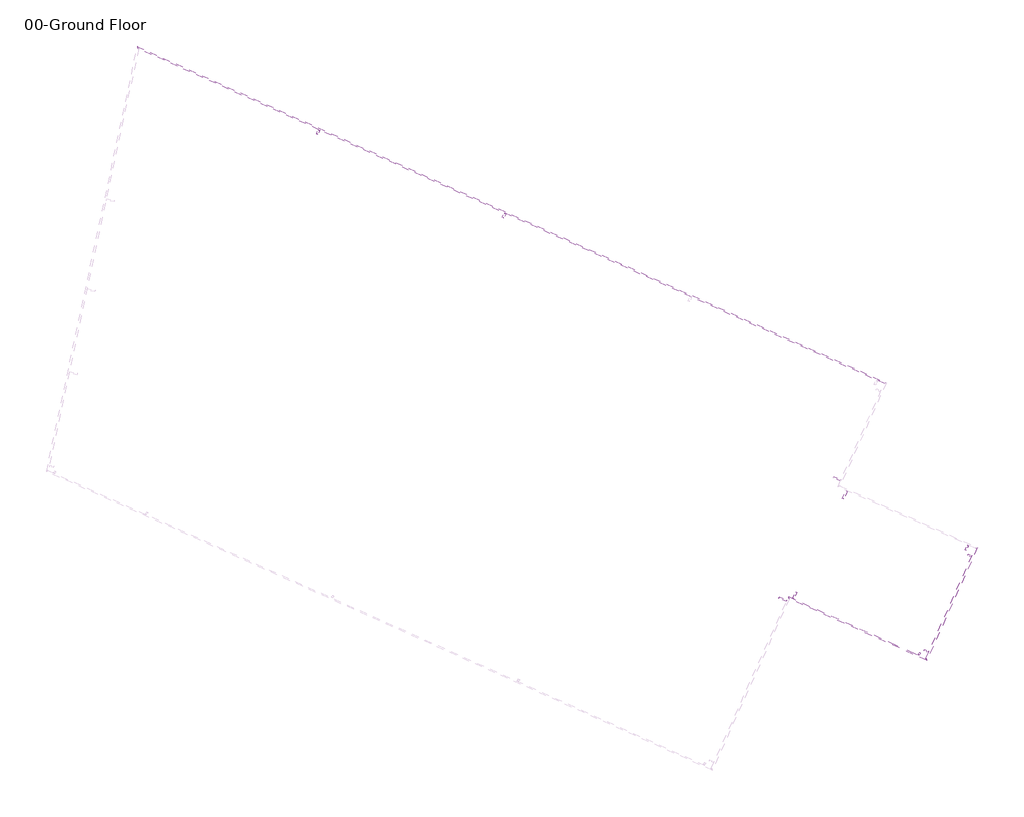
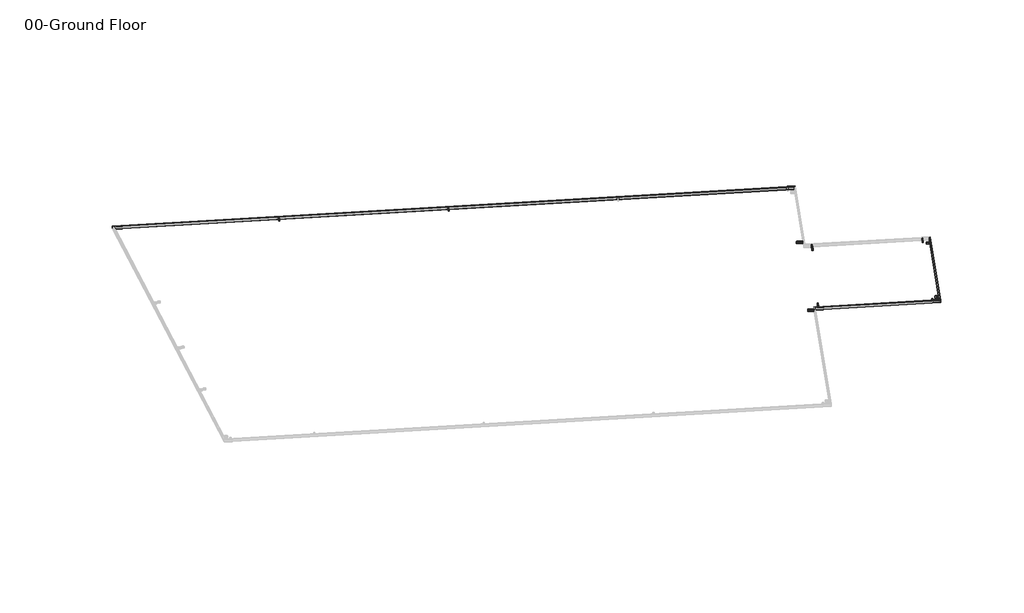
# One storey, part 4 of 5: 13 beams.
"""IFC4 building model written with IfcOpenShell, lengths in millimetres."""

from ifc_helpers import new_model, si_unit, frame, origin, place, context, project, spatial, polyline, ellipse_curve, transform, mapped, element, save
from ifc_brep_helpers import plane_surface, cylinder_surface, revolved_surface, advanced_brep
from components import hss_hollow_structural_section_hss3x2x1_8_a8fac2c2, hss_hollow_structural_section_hss3x2x1_8_9bae5ac0, hss_hollow_structural_section_hss3x2x1_8_4448584e, hss_hollow_structural_section_hss3x2x1_8_013797e3, hss_hollow_structural_section_hss3x2x1_8_d322ad7d, hss_hollow_structural_section_hss3x2x1_8_eb60367d, hss_hollow_structural_section_hss3x2x1_8_ec86c395, hss_hollow_structural_section_hss3x2x1_8_a59be2b4

model = new_model("IFC4")

# Units and contexts
model_context = context("Model", 3, world=origin())
ifc_project = project(units=[si_unit("LENGTHUNIT", "METRE", prefix="MILLI")], contexts=[model_context])

# Site, building, storey
site = spatial("IfcSite", under=ifc_project)
building = spatial("IfcBuilding", under=site)
storey = spatial("IfcBuildingStorey", under=building, Name="00-Ground Floor", Elevation=0.0)

# Beams
placement = place(None, origin())
hss_hollow_structural_section_hss3x2x1_8_shape = hss_hollow_structural_section_hss3x2x1_8_a8fac2c2(model_context)
element("IfcBeam", 1, ObjectType="HSS-Hollow Structural Section : HSS3X2X1/8", at=placement, inside=storey, context=model_context, shape_type="MappedRepresentation", body=[
    mapped(hss_hollow_structural_section_hss3x2x1_8_shape, transform((36965.3915736, -2497.5805101, 16658.2302755), x_axis=(0.4091945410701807, 0.9109449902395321, 0.052335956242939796), y_axis=(-0.9121951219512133, 0.4097560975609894, 0.0), z_axis=(-0.021444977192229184, -0.04774060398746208, 0.9986295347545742))),
])
element("IfcBeam", 2, ObjectType="HSS-Hollow Structural Section : HSS3X2X1/8", at=placement, inside=storey, context=model_context, shape_type="MappedRepresentation", body=[
    mapped(hss_hollow_structural_section_hss3x2x1_8_shape, transform((43360.2442565, -5370.1346564, 16658.2302755), x_axis=(0.40919454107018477, 0.9109449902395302, 0.05233595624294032), y_axis=(-0.9121951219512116, 0.40975609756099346, 0.0), z_axis=(-0.0214449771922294, -0.047740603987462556, 0.9986295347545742))),
])
hss_hollow_structural_section_hss3x2x1_8_2_shape = hss_hollow_structural_section_hss3x2x1_8_9bae5ac0(model_context)
element("IfcBeam", 3, ObjectType="HSS-Hollow Structural Section : HSS3X2X1/8", at=placement, inside=storey, context=model_context, shape_type="MappedRepresentation", body=[
    mapped(hss_hollow_structural_section_hss3x2x1_8_2_shape, transform((57874.4831972, -20293.602729, 16256.4818369), x_axis=(0.9121951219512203, -0.40975609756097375, 0.0), y_axis=(0.4091945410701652, 0.9109449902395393, 0.052335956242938), z_axis=(-0.021444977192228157, -0.047740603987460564, 0.9986295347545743))),
])
hss_hollow_structural_section_hss3x2x1_8_3_shape = hss_hollow_structural_section_hss3x2x1_8_4448584e(model_context)
element("IfcBeam", 4, ObjectType="HSS-Hollow Structural Section : HSS3X2X1/8", at=placement, inside=storey, context=model_context, shape_type="MappedRepresentation", body=[
    mapped(hss_hollow_structural_section_hss3x2x1_8_3_shape, transform((54845.0693796, -14392.0834896, 16473.5557118), x_axis=(0.9121951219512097, -0.4097560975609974, 0.0), y_axis=(0.40919454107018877, 0.9109449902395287, 0.05233595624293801), z_axis=(-0.0214449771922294, -0.047740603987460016, 0.9986295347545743))),
])
element("IfcBeam", 5, ObjectType="HSS-Hollow Structural Section : HSS3X2X1/8", at=placement, inside=storey, context=model_context, shape_type="MappedRepresentation", body=[
    mapped(hss_hollow_structural_section_hss3x2x1_8_3_shape, transform((52986.4238112, -18529.7825525, 16235.8350597), x_axis=(0.9121951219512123, -0.4097560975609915, 0.0), y_axis=(0.4091945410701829, 0.9109449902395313, 0.052335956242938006), z_axis=(-0.021444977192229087, -0.04774060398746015, 0.9986295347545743))),
])
hss_hollow_structural_section_hss3x2x1_8_4_shape = hss_hollow_structural_section_hss3x2x1_8_013797e3(model_context)
element("IfcBeam", 6, ObjectType="HSS-Hollow Structural Section : HSS3X2X1/8", at=placement, inside=storey, context=model_context, shape_type="MappedRepresentation", body=[
    mapped(hss_hollow_structural_section_hss3x2x1_8_4_shape, transform((55111.4186399, -14914.9250173, 16454.2803791), x_axis=(-0.409194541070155, -0.9109449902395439, -0.0523359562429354), y_axis=(0.912195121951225, -0.40975609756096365, 0.0), z_axis=(-0.021444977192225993, -0.04774060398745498, 0.9986295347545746))),
])
hss_hollow_structural_section_hss3x2x1_8_5_shape = hss_hollow_structural_section_hss3x2x1_8_d322ad7d(model_context)
element("IfcBeam", 7, ObjectType="HSS-Hollow Structural Section : HSS3X2X1/8", at=placement, inside=storey, context=model_context, shape_type="MappedRepresentation", body=[
    mapped(hss_hollow_structural_section_hss3x2x1_8_5_shape, transform((59281.9747374, -16788.3298954, 16454.2803791), x_axis=(0.40919454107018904, 0.9109449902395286, 0.05233595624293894), y_axis=(-0.9121951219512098, 0.4097560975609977, 0.0), z_axis=(-0.021444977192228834, -0.047740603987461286, 0.9986295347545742))),
])
hss_hollow_structural_section_hss3x2x1_8_6_shape = hss_hollow_structural_section_hss3x2x1_8_eb60367d(model_context)
element("IfcBeam", 8, ObjectType="HSS-Hollow Structural Section : HSS3X2X1/8", at=placement, inside=storey, context=model_context, shape_type="MappedRepresentation", body=[
    mapped(hss_hollow_structural_section_hss3x2x1_8_6_shape, transform((59352.9844438, -17002.1773347, 16445.582054), x_axis=(0.9121951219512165, -0.4097560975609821, 0.0), y_axis=(0.4091945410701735, 0.9109449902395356, 0.05233595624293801), z_axis=(-0.021444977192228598, -0.04774060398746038, 0.9986295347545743))),
])
hss_hollow_structural_section_hss3x2x1_8_7_shape = hss_hollow_structural_section_hss3x2x1_8_ec86c395(model_context)
element("IfcBeam", 9, ObjectType="HSS-Hollow Structural Section : HSS3X2X1/8", at=placement, inside=storey, context=model_context, shape_type="MappedRepresentation", body=[
    mapped(hss_hollow_structural_section_hss3x2x1_8_7_shape, transform((57680.7339429, -20352.9969021, 16249.4817815), x_axis=(-0.40919454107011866, -0.9109449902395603, -0.052335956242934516), y_axis=(0.9121951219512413, -0.4097560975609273, 0.0), z_axis=(-0.021444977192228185, -0.047740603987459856, 0.9986295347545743))),
])
hss_hollow_structural_section_hss3x2x1_8_8_shape = hss_hollow_structural_section_hss3x2x1_8_a59be2b4(model_context)
element("IfcBeam", 10, ObjectType="HSS-Hollow Structural Section : HSS3X2X1/8", at=placement, inside=storey, context=model_context, shape_type="MappedRepresentation", body=[
    mapped(hss_hollow_structural_section_hss3x2x1_8_8_shape, transform((53373.5930685, -18411.7271821, 16249.7930592), x_axis=(0.40919454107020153, 0.9109449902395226, 0.05233595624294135), y_axis=(-0.9121951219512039, 0.4097560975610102, 0.0), z_axis=(-0.0214449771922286, -0.04774060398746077, 0.9986295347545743))),
])
element("IfcBeam", 11, ObjectType="HSS-Hollow Structural Section : HSS5X2X1/8", at=placement, inside=storey, context=model_context, shape_type="AdvancedBrep", body=[
    advanced_brep(
    [(56518.5551186, -11086.120904, 16705.6903584), (56526.4681746, -11082.8861722, 16700.1140396), (30771.4031294, 486.233955, 16700.1140396), (30775.5166497, 477.596911, 16705.6903584), (56467.0018937, -11105.6744879, 16703.6485024), (30803.5876534, 422.2762939, 16703.6485024), (56459.3415797, -11108.346568, 16697.455373), (30807.9539155, 414.2019015, 16697.455373), (56461.8123499, -11102.8461629, 16582.3988703), (30810.4246857, 419.7023065, 16582.3988703), (56469.7254058, -11099.6114312, 16576.8225515), (30806.3111655, 428.3393506, 16576.8225515), (56521.2786307, -11080.0578473, 16578.8644074), (30778.2401618, 483.6599677, 16578.8644074), (56528.9389447, -11077.3857672, 16585.0575369), (30773.8738996, 491.73436, 16585.0575369), (56518.6183041, -11085.980241, 16702.7479963), (56467.0650792, -11105.533825, 16700.7061404), (30803.6508388, 422.4169568, 16700.7061404), (30775.5798351, 477.7375739, 16702.7479963), (56522.5748321, -11084.3628752, 16699.9598369), (30773.523075, 482.0560959, 16699.9598369), (56525.0456022, -11078.8624701, 16584.9033342), (30775.9938452, 487.5565009, 16584.9033342), (56521.2154452, -11080.1985102, 16581.8067695), (30778.1769763, 483.5193048, 16581.8067695), (56469.6622203, -11099.7520941, 16579.7649136), (30806.24798, 428.1986877, 16579.7649136), (56465.7056924, -11101.36946, 16582.553073), (30808.3047401, 423.8801657, 16582.553073), (56463.2349222, -11106.869865, 16697.6095756), (30805.8339699, 418.3797606, 16697.6095756)],
    [
        (0, 1, ellipse_curve(frame((56518.6814896, -11085.8395781, 16699.8056342), z_axis=(-0.35567512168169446, 0.93387669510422, 0.03700710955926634), x_axis=(0.934363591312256, 0.3543940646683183, 0.03700710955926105)), 8.3336777, 5.8928)),
        (1, 2),
        (2, 3, ellipse_curve(frame((30775.6430206, 477.8782368, 16699.8056342), z_axis=(0.8916297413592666, 0.45093186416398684, 0.04070452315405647), x_axis=(0.45225713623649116, -0.891280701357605, -0.03289671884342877)), 9.3749569, 5.8928)),
        (3, 0),
        (4, 0),
        (3, 5),
        (5, 4),
        (6, 4, ellipse_curve(frame((56467.1282647, -11105.3931621, 16697.7637783), z_axis=(-0.35567512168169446, 0.93387669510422, 0.03700710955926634), x_axis=(0.934363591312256, 0.3543940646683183, 0.03700710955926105)), 8.3336777, 5.8928)),
        (5, 7, ellipse_curve(frame((30803.7140243, 422.5576197, 16697.7637783), z_axis=(0.8916297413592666, 0.45093186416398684, 0.04070452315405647), x_axis=(0.45225713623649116, -0.891280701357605, -0.03289671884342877)), 9.3749569, 5.8928)),
        (7, 6),
        (8, 6),
        (7, 9),
        (9, 8),
        (10, 8, ellipse_curve(frame((56469.5990349, -11099.892757, 16582.7072756), z_axis=(-0.35567512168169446, 0.93387669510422, 0.03700710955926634), x_axis=(0.934363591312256, 0.3543940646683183, 0.03700710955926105)), 8.3336777, 5.8928)),
        (9, 11, ellipse_curve(frame((30806.1847945, 428.0580248, 16582.7072756), z_axis=(0.8916297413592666, 0.45093186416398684, 0.04070452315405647), x_axis=(0.45225713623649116, -0.891280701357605, -0.03289671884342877)), 9.3749569, 5.8928)),
        (11, 10),
        (12, 10),
        (11, 13),
        (13, 12),
        (14, 12, ellipse_curve(frame((56521.1522597, -11080.3391731, 16584.7491316), z_axis=(-0.35567512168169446, 0.93387669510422, 0.03700710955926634), x_axis=(0.934363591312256, 0.3543940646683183, 0.03700710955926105)), 8.3336777, 5.8928)),
        (13, 15, ellipse_curve(frame((30778.1137908, 483.3786418, 16584.7491316), z_axis=(0.8916297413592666, 0.45093186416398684, 0.04070452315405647), x_axis=(0.45225713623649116, -0.891280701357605, -0.03289671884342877)), 9.3749569, 5.8928)),
        (15, 14),
        (1, 14),
        (15, 2),
        (16, 17),
        (17, 18),
        (18, 19),
        (19, 16),
        (20, 16, ellipse_curve(frame((56518.6814896, -11085.8395781, 16699.8056342), z_axis=(0.35567512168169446, -0.93387669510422, -0.03700710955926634), x_axis=(-0.934363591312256, -0.3543940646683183, -0.03700710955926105)), 4.1668388, 2.9464)),
        (19, 21, ellipse_curve(frame((30775.6430206, 477.8782368, 16699.8056342), z_axis=(-0.8916297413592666, -0.45093186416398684, -0.04070452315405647), x_axis=(-0.45225713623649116, 0.891280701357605, 0.03289671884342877)), 4.6874785, 2.9464)),
        (21, 20),
        (22, 20),
        (21, 23),
        (23, 22),
        (24, 22, ellipse_curve(frame((56521.1522597, -11080.3391731, 16584.7491316), z_axis=(0.35567512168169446, -0.93387669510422, -0.03700710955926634), x_axis=(-0.934363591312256, -0.3543940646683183, -0.03700710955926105)), 4.1668388, 2.9464)),
        (23, 25, ellipse_curve(frame((30778.1137908, 483.3786418, 16584.7491316), z_axis=(-0.8916297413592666, -0.45093186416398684, -0.04070452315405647), x_axis=(-0.45225713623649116, 0.891280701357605, 0.03289671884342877)), 4.6874785, 2.9464)),
        (25, 24),
        (26, 24),
        (25, 27),
        (27, 26),
        (28, 26, ellipse_curve(frame((56469.5990349, -11099.892757, 16582.7072756), z_axis=(0.35567512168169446, -0.93387669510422, -0.03700710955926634), x_axis=(-0.934363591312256, -0.3543940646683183, -0.03700710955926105)), 4.1668388, 2.9464)),
        (27, 29, ellipse_curve(frame((30806.1847945, 428.0580248, 16582.7072756), z_axis=(-0.8916297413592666, -0.45093186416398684, -0.04070452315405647), x_axis=(-0.45225713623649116, 0.891280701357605, 0.03289671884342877)), 4.6874785, 2.9464)),
        (29, 28),
        (30, 28),
        (29, 31),
        (31, 30),
        (17, 30, ellipse_curve(frame((56467.1282647, -11105.3931621, 16697.7637783), z_axis=(0.35567512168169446, -0.93387669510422, -0.03700710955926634), x_axis=(-0.934363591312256, -0.3543940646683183, -0.03700710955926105)), 4.1668388, 2.9464)),
        (31, 18, ellipse_curve(frame((30803.7140243, 422.5576197, 16697.7637783), z_axis=(-0.8916297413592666, -0.45093186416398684, -0.04070452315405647), x_axis=(-0.45225713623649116, 0.891280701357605, 0.03289671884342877)), 4.6874785, 2.9464)),
    ],
    [
        cylinder_surface(frame((56500.8871169, -11077.846384, 16699.8056342), z_axis=(0.9121951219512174, -0.40975609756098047, 0.0), x_axis=(-0.40919454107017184, -0.9109449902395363, -0.05233595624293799)), 5.8928),
        plane_surface(frame((56500.7607459, -11078.1277098, 16705.6903584), z_axis=(-0.02144497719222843, -0.04774060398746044, 0.9986295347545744), x_axis=(-0.9121951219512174, 0.40975609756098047, 0.0))),
        cylinder_surface(frame((56484.9226374, -11113.3863562, 16697.7637783), z_axis=(0.9121951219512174, -0.40975609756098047, 0.0), x_axis=(-0.40919454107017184, -0.9109449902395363, -0.05233595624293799)), 5.8928),
        plane_surface(frame((56482.5113358, -11118.7543728, 16697.455373), z_axis=(-0.4091945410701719, -0.9109449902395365, -0.052335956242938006), x_axis=(-0.9121951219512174, 0.40975609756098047, 0.0))),
        cylinder_surface(frame((56487.3934075, -11107.8859512, 16582.7072756), z_axis=(0.9121951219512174, -0.40975609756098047, 0.0), x_axis=(-0.40919454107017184, -0.9109449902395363, -0.05233595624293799)), 5.8928),
        plane_surface(frame((56487.5197785, -11107.6046253, 16576.8225515), z_axis=(0.02144497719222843, 0.04774060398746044, -0.9986295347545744), x_axis=(-0.9121951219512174, 0.40975609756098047, 0.0))),
        cylinder_surface(frame((56503.3578871, -11072.3459789, 16584.7491316), z_axis=(0.9121951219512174, -0.40975609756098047, 0.0), x_axis=(-0.40919454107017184, -0.9109449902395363, -0.05233595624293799)), 5.8928),
        plane_surface(frame((56505.7691886, -11066.9779623, 16585.0575369), z_axis=(0.4091945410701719, 0.9109449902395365, 0.052335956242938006), x_axis=(-0.9121951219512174, 0.40975609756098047, 0.0))),
        plane_surface(frame((56484.8594519, -11113.5270191, 16700.7061404), z_axis=(0.02144497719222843, 0.04774060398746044, -0.9986295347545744), x_axis=(-0.9121951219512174, 0.40975609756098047, 0.0))),
        revolved_surface(polyline([(30771.111773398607, 476.68807927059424, 16699.65143153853), (56520.16353050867, -11089.730891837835, 16699.65143153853)]), (56500.8871169, -11077.846384, 16699.8056342), (-0.9121951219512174, 0.40975609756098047, 0.0)),
        plane_surface(frame((56502.0927677, -11075.1623757, 16699.9598369), z_axis=(-0.4091945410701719, -0.9109449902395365, -0.052335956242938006), x_axis=(-0.9121951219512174, 0.40975609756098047, 0.0))),
        revolved_surface(polyline([(30773.58254363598, 482.1884843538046, 16584.594928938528), (56522.63430062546, -11084.230486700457, 16584.594928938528)]), (56503.3578871, -11072.3459789, 16584.7491316), (-0.9121951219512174, 0.40975609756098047, 0.0)),
        plane_surface(frame((56503.4210725, -11072.205316, 16581.8067695), z_axis=(-0.02144497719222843, -0.04774060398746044, 0.9986295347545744), x_axis=(-0.9121951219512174, 0.40975609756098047, 0.0))),
        revolved_surface(polyline([(30801.65354725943, 426.8678671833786, 16582.55307293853), (56471.08107575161, -11103.7840707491, 16582.55307293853)]), (56487.3934075, -11107.8859512, 16582.7072756), (-0.9121951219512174, 0.40975609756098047, 0.0)),
        plane_surface(frame((56486.1877568, -11110.5699595, 16582.553073), z_axis=(0.4091945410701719, 0.9109449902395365, 0.052335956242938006), x_axis=(-0.9121951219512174, 0.40975609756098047, 0.0))),
        revolved_surface(polyline([(30799.182777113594, 421.3674622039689, 16697.609575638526), (56468.61030560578, -11109.284475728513, 16697.609575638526)]), (56484.9226374, -11113.3863562, 16697.7637783), (-0.9121951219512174, 0.40975609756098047, 0.0)),
        plane_surface(frame((30806.1934373, 410.2827416, 16779.4356677), z_axis=(-0.8916297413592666, -0.45093186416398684, -0.04070452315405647), x_axis=(0.4527652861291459, -0.888019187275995, -0.08015933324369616))),
        plane_surface(frame((56457.5811015, -11112.2657278, 16779.4356677), z_axis=(0.3556751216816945, -0.9338766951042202, -0.037007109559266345), x_axis=(0.9346096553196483, 0.35539618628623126, 0.014083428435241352))),
    ],
    [
        (0, [[1, 2, 3, 4]]),
        (1, [[5, -4, 6, 7]]),
        (2, [[8, -7, 9, 10]]),
        (3, [[11, -10, 12, 13]]),
        (4, [[14, -13, 15, 16]]),
        (5, [[17, -16, 18, 19]]),
        (6, [[20, -19, 21, 22]]),
        (7, [[23, -22, 24, -2]]),
        (8, [[25, 26, 27, 28]]),
        (9, [[29, -28, 30, 31]]),
        (10, [[32, -31, 33, 34]]),
        (11, [[35, -34, 36, 37]]),
        (12, [[38, -37, 39, 40]]),
        (13, [[41, -40, 42, 43]]),
        (14, [[44, -43, 45, 46]]),
        (15, [[47, -46, 48, -26]]),
        (16, [[-24, -21, -18, -15, -12, -9, -6, -3], [-48, -45, -42, -39, -36, -33, -30, -27]]),
        (17, [[-1, -5, -8, -11, -14, -17, -20, -23], [-25, -29, -32, -35, -38, -41, -44, -47]]),
    ],
),
])
element("IfcBeam", 12, ObjectType="HSS-Hollow Structural Section : HSS5X2X1/8", at=placement, inside=storey, context=model_context, shape_type="AdvancedBrep", body=[
    advanced_brep(
    [(57913.0353778, -20627.3136604, 16279.5085835), (57916.1258305, -20634.8149619, 16273.315454), (59660.4424441, -16751.6339293, 16496.4134399), (59652.5293881, -16754.8686611, 16501.9897587), (57893.4111119, -20575.7872998, 16281.5504394), (59600.9761633, -16774.422245, 16499.9479028), (57890.573401, -20567.7233466, 16275.9741206), (59593.3158492, -16777.0943251, 16493.7547733), (57893.0441712, -20562.2229416, 16160.9176179), (59595.7866194, -16771.59392, 16378.6982707), (57896.134624, -20569.7242431, 16154.7244885), (59603.6996754, -16768.3591883, 16373.1219519), (57915.7588899, -20621.2506036, 16152.6826325), (59655.2529002, -16748.8056044, 16375.1638078), (57918.5966007, -20629.3145568, 16158.2589513), (59662.9132143, -16746.1335243, 16381.3569373), (57913.0985632, -20627.1729974, 16276.5662214), (57893.4742974, -20575.6466369, 16278.6080773), (59601.0393487, -16774.2815821, 16497.0055407), (59652.5925736, -16754.7279982, 16499.0473967), (57914.6437896, -20630.9236482, 16273.4696567), (59656.5491016, -16753.1106323, 16496.2592373), (57917.1145598, -20625.4232432, 16158.413154), (59659.0198718, -16747.6102272, 16381.2027346), (57915.6957044, -20621.3912666, 16155.6249946), (59655.1897147, -16748.9462673, 16378.1061699), (57896.0714385, -20569.864906, 16157.6668505), (59603.6364899, -16768.4998512, 16376.0643139), (57894.5262121, -20566.1142553, 16160.7634153), (59599.6799619, -16770.1172171, 16378.8524733), (57892.0554419, -20571.6146603, 16275.8199179), (59597.2091917, -16775.6176221, 16493.908976)],
    [
        (0, 1, ellipse_curve(frame((57913.1617487, -20627.0323345, 16273.6238593), z_axis=(0.9343635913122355, 0.354394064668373, 0.03700710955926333), x_axis=(0.3556751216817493, -0.933876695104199, -0.03700710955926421)), 8.3336777, 5.8928)),
        (1, 2),
        (2, 3, ellipse_curve(frame((59652.6557591, -16754.5873352, 16496.1050346), z_axis=(0.35567512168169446, -0.93387669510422, -0.03700710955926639), x_axis=(-0.9343635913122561, -0.35439406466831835, -0.03700710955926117)), 8.3336777, 5.8928)),
        (3, 0),
        (4, 0),
        (3, 5),
        (5, 4),
        (6, 4, ellipse_curve(frame((57893.5374829, -20575.505974, 16275.6657153), z_axis=(0.9343635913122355, 0.354394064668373, 0.03700710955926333), x_axis=(0.3556751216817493, -0.933876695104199, -0.03700710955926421)), 8.3336777, 5.8928)),
        (5, 7, ellipse_curve(frame((59601.1025342, -16774.1409192, 16494.0631787), z_axis=(0.35567512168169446, -0.93387669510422, -0.03700710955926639), x_axis=(-0.9343635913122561, -0.35439406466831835, -0.03700710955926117)), 8.3336777, 5.8928)),
        (7, 6),
        (8, 6),
        (7, 9),
        (9, 8),
        (10, 8, ellipse_curve(frame((57896.008253, -20570.005569, 16160.6092126), z_axis=(0.9343635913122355, 0.354394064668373, 0.03700710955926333), x_axis=(0.3556751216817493, -0.933876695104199, -0.03700710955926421)), 8.3336777, 5.8928)),
        (9, 11, ellipse_curve(frame((59603.5733044, -16768.6405141, 16379.006676), z_axis=(0.35567512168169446, -0.93387669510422, -0.03700710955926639), x_axis=(-0.9343635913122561, -0.35439406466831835, -0.03700710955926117)), 8.3336777, 5.8928)),
        (11, 10),
        (12, 10),
        (11, 13),
        (13, 12),
        (14, 12, ellipse_curve(frame((57915.6325189, -20621.5319295, 16158.5673567), z_axis=(0.9343635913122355, 0.354394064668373, 0.03700710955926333), x_axis=(0.3556751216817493, -0.933876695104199, -0.03700710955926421)), 8.3336777, 5.8928)),
        (13, 15, ellipse_curve(frame((59655.1265293, -16749.0869302, 16381.0485319), z_axis=(0.35567512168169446, -0.93387669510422, -0.03700710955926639), x_axis=(-0.9343635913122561, -0.35439406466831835, -0.03700710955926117)), 8.3336777, 5.8928)),
        (15, 14),
        (1, 14),
        (15, 2),
        (16, 17),
        (17, 18),
        (18, 19),
        (19, 16),
        (20, 16, ellipse_curve(frame((57913.1617487, -20627.0323345, 16273.6238593), z_axis=(-0.9343635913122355, -0.354394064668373, -0.03700710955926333), x_axis=(-0.3556751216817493, 0.933876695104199, 0.03700710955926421)), 4.1668388, 2.9464)),
        (19, 21, ellipse_curve(frame((59652.6557591, -16754.5873352, 16496.1050346), z_axis=(-0.35567512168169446, 0.93387669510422, 0.03700710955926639), x_axis=(0.9343635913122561, 0.35439406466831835, 0.03700710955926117)), 4.1668388, 2.9464)),
        (21, 20),
        (22, 20),
        (21, 23),
        (23, 22),
        (24, 22, ellipse_curve(frame((57915.6325189, -20621.5319295, 16158.5673567), z_axis=(-0.9343635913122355, -0.354394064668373, -0.03700710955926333), x_axis=(-0.3556751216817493, 0.933876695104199, 0.03700710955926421)), 4.1668388, 2.9464)),
        (23, 25, ellipse_curve(frame((59655.1265293, -16749.0869302, 16381.0485319), z_axis=(-0.35567512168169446, 0.93387669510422, 0.03700710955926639), x_axis=(0.9343635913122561, 0.35439406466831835, 0.03700710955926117)), 4.1668388, 2.9464)),
        (25, 24),
        (26, 24),
        (25, 27),
        (27, 26),
        (28, 26, ellipse_curve(frame((57896.008253, -20570.005569, 16160.6092126), z_axis=(-0.9343635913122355, -0.354394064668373, -0.03700710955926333), x_axis=(-0.3556751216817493, 0.933876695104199, 0.03700710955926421)), 4.1668388, 2.9464)),
        (27, 29, ellipse_curve(frame((59603.5733044, -16768.6405141, 16379.006676), z_axis=(-0.35567512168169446, 0.93387669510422, 0.03700710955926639), x_axis=(0.9343635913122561, 0.35439406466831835, 0.03700710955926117)), 4.1668388, 2.9464)),
        (29, 28),
        (30, 28),
        (29, 31),
        (31, 30),
        (17, 30, ellipse_curve(frame((57893.5374829, -20575.505974, 16275.6657153), z_axis=(-0.9343635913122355, -0.354394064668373, -0.03700710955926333), x_axis=(-0.3556751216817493, 0.933876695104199, 0.03700710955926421)), 4.1668388, 2.9464)),
        (31, 18, ellipse_curve(frame((59601.1025342, -16774.1409192, 16494.0631787), z_axis=(-0.35567512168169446, 0.93387669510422, 0.03700710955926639), x_axis=(0.9343635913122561, 0.35439406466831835, 0.03700710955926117)), 4.1668388, 2.9464)),
    ],
    [
        cylinder_surface(frame((57921.1439885, -20609.2623484, 16274.6447873), z_axis=(-0.4091945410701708, -0.9109449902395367, -0.052335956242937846), x_axis=(-0.9121951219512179, 0.4097560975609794, 0.0)), 5.8928),
        plane_surface(frame((57921.0176175, -20609.5436742, 16280.5295114), z_axis=(-0.021444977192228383, -0.04774060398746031, 0.9986295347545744), x_axis=(0.40919454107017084, 0.9109449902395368, 0.05233595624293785))),
        cylinder_surface(frame((57885.5552431, -20593.2759601, 16274.6447873), z_axis=(-0.4091945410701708, -0.9109449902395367, -0.052335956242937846), x_axis=(-0.9121951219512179, 0.4097560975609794, 0.0)), 5.8928),
        plane_surface(frame((57880.1798597, -20590.8613494, 16274.6447873), z_axis=(-0.912195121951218, 0.40975609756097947, 0.0), x_axis=(0.40919454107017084, 0.9109449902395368, 0.05233595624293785))),
        cylinder_surface(frame((57888.0260133, -20587.7755551, 16159.5882846), z_axis=(-0.4091945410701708, -0.9109449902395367, -0.052335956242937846), x_axis=(-0.9121951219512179, 0.4097560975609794, 0.0)), 5.8928),
        plane_surface(frame((57888.1523842, -20587.4942292, 16153.7035605), z_axis=(0.021444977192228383, 0.04774060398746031, -0.9986295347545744), x_axis=(0.40919454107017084, 0.9109449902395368, 0.05233595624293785))),
        cylinder_surface(frame((57923.6147586, -20603.7619434, 16159.5882846), z_axis=(-0.4091945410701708, -0.9109449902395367, -0.052335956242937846), x_axis=(-0.9121951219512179, 0.4097560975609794, 0.0)), 5.8928),
        plane_surface(frame((57928.9901421, -20606.1765541, 16159.5882846), z_axis=(0.912195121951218, -0.40975609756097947, 0.0), x_axis=(0.40919454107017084, 0.9109449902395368, 0.05233595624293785))),
        plane_surface(frame((57885.4920576, -20593.416623, 16277.5871494), z_axis=(0.021444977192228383, 0.04774060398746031, -0.9986295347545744), x_axis=(0.40919454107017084, 0.9109449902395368, 0.05233595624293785))),
        revolved_surface(polyline([(59651.17371820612, -16750.696021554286, 16496.259237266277), (57909.268406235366, -20628.509037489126, 16273.469656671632)]), (57921.1439885, -20609.2623484, 16274.6447873), (0.4091945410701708, 0.9109449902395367, 0.052335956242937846)),
        plane_surface(frame((57923.8316802, -20610.4696538, 16274.6447873), z_axis=(-0.912195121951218, 0.40975609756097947, 0.0), x_axis=(0.40919454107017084, 0.9109449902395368, 0.05233595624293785))),
        revolved_surface(polyline([(59653.64448835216, -16745.195616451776, 16381.202734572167), (57911.739176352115, -20623.00863245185, 16158.413153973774)]), (57923.6147586, -20603.7619434, 16159.5882846), (0.4091945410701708, 0.9109449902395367, 0.052335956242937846)),
        plane_surface(frame((57923.6779441, -20603.6212804, 16156.6459226), z_axis=(-0.021444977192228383, -0.04774060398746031, 0.9986295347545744), x_axis=(0.40919454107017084, 0.9109449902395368, 0.05233595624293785))),
        revolved_surface(polyline([(59602.09126351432, -16764.749200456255, 16379.160878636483), (57892.11491054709, -20571.482271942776, 16160.455009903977)]), (57888.0260133, -20587.7755551, 16159.5882846), (0.4091945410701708, 0.9109449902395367, 0.052335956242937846)),
        plane_surface(frame((57885.3383216, -20586.5682497, 16159.5882846), z_axis=(0.912195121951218, -0.40975609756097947, 0.0), x_axis=(0.40919454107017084, 0.9109449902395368, 0.05233595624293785))),
        revolved_surface(polyline([(59599.62049327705, -16770.24960553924, 16494.217381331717), (57889.644140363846, -20576.982676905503, 16275.511512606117)]), (57885.5552431, -20593.2759601, 16274.6447873), (0.4091945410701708, 0.9109449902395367, 0.052335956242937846)),
        plane_surface(frame((59591.555371, -16781.0134849, 16575.735068), z_axis=(-0.3556751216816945, 0.9338766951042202, 0.0370071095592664), x_axis=(0.9346096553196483, 0.35539618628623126, 0.014083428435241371))),
        plane_surface(frame((57888.8129228, -20571.6425065, 16357.9544153), z_axis=(-0.9343635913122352, -0.3543940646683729, -0.037007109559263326), x_axis=(0.35632103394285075, -0.9293105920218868, -0.09704197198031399))),
    ],
    [
        (0, [[1, 2, 3, 4]]),
        (1, [[5, -4, 6, 7]]),
        (2, [[8, -7, 9, 10]]),
        (3, [[11, -10, 12, 13]]),
        (4, [[14, -13, 15, 16]]),
        (5, [[17, -16, 18, 19]]),
        (6, [[20, -19, 21, 22]]),
        (7, [[23, -22, 24, -2]]),
        (8, [[25, 26, 27, 28]]),
        (9, [[29, -28, 30, 31]]),
        (10, [[32, -31, 33, 34]]),
        (11, [[35, -34, 36, 37]]),
        (12, [[38, -37, 39, 40]]),
        (13, [[41, -40, 42, 43]]),
        (14, [[44, -43, 45, 46]]),
        (15, [[47, -46, 48, -26]]),
        (16, [[-24, -21, -18, -15, -12, -9, -6, -3], [-48, -45, -42, -39, -36, -33, -30, -27]]),
        (17, [[-1, -5, -8, -11, -14, -17, -20, -23], [-25, -29, -32, -35, -38, -41, -44, -47]]),
    ],
),
])
element("IfcBeam", 13, ObjectType="HSS-Hollow Structural Section : HSS5X2X1/8", at=placement, inside=storey, context=model_context, shape_type="AdvancedBrep", body=[
    advanced_brep(
    [(53186.4051338, -18504.1214652, 16279.5085835), (53189.4955866, -18511.6227668, 16273.315454), (57916.1258305, -20634.8149619, 16273.315454), (57913.0353778, -20627.3136604, 16279.5085835), (53166.780868, -18452.5951047, 16281.5504394), (57893.4111119, -20575.7872998, 16281.5504394), (53163.9431571, -18444.5311515, 16275.9741206), (57890.573401, -20567.7233466, 16275.9741206), (53166.4139273, -18439.0307465, 16160.9176179), (57893.0441712, -20562.2229416, 16160.9176179), (53169.5043801, -18446.532048, 16154.7244885), (57896.134624, -20569.7242431, 16154.7244885), (53189.128646, -18498.0584085, 16152.6826325), (57915.7588899, -20621.2506036, 16152.6826325), (53191.9663568, -18506.1223617, 16158.2589513), (57918.5966007, -20629.3145568, 16158.2589513), (53186.4683193, -18503.9808023, 16276.5662214), (53166.8440535, -18452.4544418, 16278.6080773), (57893.4742974, -20575.6466369, 16278.6080773), (57913.0985632, -20627.1729974, 16276.5662214), (53188.0135457, -18507.7314531, 16273.4696567), (57914.6437896, -20630.9236482, 16273.4696567), (53190.4843159, -18502.231048, 16158.413154), (57917.1145598, -20625.4232432, 16158.413154), (53189.0654605, -18498.1990714, 16155.6249946), (57915.6957044, -20621.3912666, 16155.6249946), (53169.4411946, -18446.6727109, 16157.6668505), (57896.0714385, -20569.864906, 16157.6668505), (53167.8959682, -18442.9220602, 16160.7634153), (57894.5262121, -20566.1142553, 16160.7634153), (53165.425198, -18448.4224652, 16275.8199179), (57892.0554419, -20571.6146603, 16275.8199179)],
    [
        (0, 1, ellipse_curve(frame((53186.5315048, -18503.8401394, 16273.6238593), z_axis=(0.9343635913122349, 0.354394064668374, 0.037007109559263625), x_axis=(-0.3556751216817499, 0.9338766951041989, 0.03700710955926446)), 8.3336777, 5.8928)),
        (1, 2),
        (2, 3, ellipse_curve(frame((57913.1617487, -20627.0323345, 16273.6238593), z_axis=(-0.9343635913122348, -0.354394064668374, -0.03700710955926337), x_axis=(-0.3556751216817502, 0.9338766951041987, 0.03700710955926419)), 8.3336777, 5.8928)),
        (3, 0),
        (4, 0),
        (3, 5),
        (5, 4),
        (6, 4, ellipse_curve(frame((53166.9072389, -18452.3137789, 16275.6657153), z_axis=(0.9343635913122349, 0.354394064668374, 0.037007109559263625), x_axis=(-0.3556751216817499, 0.9338766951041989, 0.03700710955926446)), 8.3336777, 5.8928)),
        (5, 7, ellipse_curve(frame((57893.5374829, -20575.505974, 16275.6657153), z_axis=(-0.9343635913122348, -0.354394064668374, -0.03700710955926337), x_axis=(-0.3556751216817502, 0.9338766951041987, 0.03700710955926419)), 8.3336777, 5.8928)),
        (7, 6),
        (8, 6),
        (7, 9),
        (9, 8),
        (10, 8, ellipse_curve(frame((53169.3780091, -18446.8133738, 16160.6092126), z_axis=(0.9343635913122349, 0.354394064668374, 0.037007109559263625), x_axis=(-0.3556751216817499, 0.9338766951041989, 0.03700710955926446)), 8.3336777, 5.8928)),
        (9, 11, ellipse_curve(frame((57896.008253, -20570.005569, 16160.6092126), z_axis=(-0.9343635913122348, -0.354394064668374, -0.03700710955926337), x_axis=(-0.3556751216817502, 0.9338766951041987, 0.03700710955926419)), 8.3336777, 5.8928)),
        (11, 10),
        (12, 10),
        (11, 13),
        (13, 12),
        (14, 12, ellipse_curve(frame((53189.002275, -18498.3397344, 16158.5673567), z_axis=(0.9343635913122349, 0.354394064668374, 0.037007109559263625), x_axis=(-0.3556751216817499, 0.9338766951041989, 0.03700710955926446)), 8.3336777, 5.8928)),
        (13, 15, ellipse_curve(frame((57915.6325189, -20621.5319295, 16158.5673567), z_axis=(-0.9343635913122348, -0.354394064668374, -0.03700710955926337), x_axis=(-0.3556751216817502, 0.9338766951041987, 0.03700710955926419)), 8.3336777, 5.8928)),
        (15, 14),
        (1, 14),
        (15, 2),
        (16, 17),
        (17, 18),
        (18, 19),
        (19, 16),
        (20, 16, ellipse_curve(frame((53186.5315048, -18503.8401394, 16273.6238593), z_axis=(-0.9343635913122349, -0.354394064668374, -0.037007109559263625), x_axis=(0.3556751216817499, -0.9338766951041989, -0.03700710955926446)), 4.1668388, 2.9464)),
        (19, 21, ellipse_curve(frame((57913.1617487, -20627.0323345, 16273.6238593), z_axis=(0.9343635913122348, 0.354394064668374, 0.03700710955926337), x_axis=(0.3556751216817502, -0.9338766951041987, -0.03700710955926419)), 4.1668388, 2.9464)),
        (21, 20),
        (22, 20),
        (21, 23),
        (23, 22),
        (24, 22, ellipse_curve(frame((53189.002275, -18498.3397344, 16158.5673567), z_axis=(-0.9343635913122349, -0.354394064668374, -0.037007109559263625), x_axis=(0.3556751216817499, -0.9338766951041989, -0.03700710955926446)), 4.1668388, 2.9464)),
        (23, 25, ellipse_curve(frame((57915.6325189, -20621.5319295, 16158.5673567), z_axis=(0.9343635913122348, 0.354394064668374, 0.03700710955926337), x_axis=(0.3556751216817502, -0.9338766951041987, -0.03700710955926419)), 4.1668388, 2.9464)),
        (25, 24),
        (26, 24),
        (25, 27),
        (27, 26),
        (28, 26, ellipse_curve(frame((53169.3780091, -18446.8133738, 16160.6092126), z_axis=(-0.9343635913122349, -0.354394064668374, -0.037007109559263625), x_axis=(0.3556751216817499, -0.9338766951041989, -0.03700710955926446)), 4.1668388, 2.9464)),
        (27, 29, ellipse_curve(frame((57896.008253, -20570.005569, 16160.6092126), z_axis=(0.9343635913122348, 0.354394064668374, 0.03700710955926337), x_axis=(0.3556751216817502, -0.9338766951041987, -0.03700710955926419)), 4.1668388, 2.9464)),
        (29, 28),
        (30, 28),
        (29, 31),
        (31, 30),
        (17, 30, ellipse_curve(frame((53166.9072389, -18452.3137789, 16275.6657153), z_axis=(-0.9343635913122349, -0.354394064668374, -0.037007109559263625), x_axis=(0.3556751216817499, -0.9338766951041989, -0.03700710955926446)), 4.1668388, 2.9464)),
        (31, 18, ellipse_curve(frame((57893.5374829, -20575.505974, 16275.6657153), z_axis=(0.9343635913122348, 0.354394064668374, 0.03700710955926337), x_axis=(0.3556751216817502, -0.9338766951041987, -0.03700710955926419)), 4.1668388, 2.9464)),
    ],
    [
        cylinder_surface(frame((53168.7371321, -18495.8469453, 16273.6238593), z_axis=(-0.9121951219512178, 0.4097560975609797, 0.0), x_axis=(0.4091945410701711, 0.9109449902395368, 0.052335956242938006)), 5.8928),
        plane_surface(frame((53168.6107612, -18496.1282711, 16279.5085835), z_axis=(-0.021444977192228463, -0.04774060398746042, 0.9986295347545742), x_axis=(0.9121951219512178, -0.4097560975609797, 0.0))),
        cylinder_surface(frame((53184.7016116, -18460.306973, 16275.6657153), z_axis=(-0.9121951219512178, 0.4097560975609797, 0.0), x_axis=(0.4091945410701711, 0.9109449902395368, 0.052335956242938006)), 5.8928),
        plane_surface(frame((53187.1129132, -18454.9389564, 16275.9741206), z_axis=(0.4091945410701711, 0.9109449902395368, 0.052335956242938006), x_axis=(0.9121951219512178, -0.4097560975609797, 0.0))),
        cylinder_surface(frame((53187.1723818, -18454.806568, 16160.6092126), z_axis=(-0.9121951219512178, 0.4097560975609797, 0.0), x_axis=(0.4091945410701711, 0.9109449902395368, 0.052335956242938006)), 5.8928),
        plane_surface(frame((53187.2987528, -18454.5252422, 16154.7244885), z_axis=(0.021444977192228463, 0.04774060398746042, -0.9986295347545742), x_axis=(0.9121951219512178, -0.4097560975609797, 0.0))),
        cylinder_surface(frame((53171.2079023, -18490.3465402, 16158.5673567), z_axis=(-0.9121951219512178, 0.4097560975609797, 0.0), x_axis=(0.4091945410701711, 0.9109449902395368, 0.052335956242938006)), 5.8928),
        plane_surface(frame((53168.7966007, -18495.7145568, 16158.2589513), z_axis=(-0.4091945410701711, -0.9109449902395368, -0.052335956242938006), x_axis=(0.9121951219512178, -0.4097560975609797, 0.0))),
        plane_surface(frame((53184.6384262, -18460.4476359, 16278.6080773), z_axis=(0.021444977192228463, 0.04774060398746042, -0.9986295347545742), x_axis=(0.9121951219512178, -0.4097560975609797, 0.0))),
        revolved_surface(polyline([(57917.05509117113, -20625.55563160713, 16273.778061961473), (53185.04946389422, -18499.948825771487, 16273.778061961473)]), (53168.7371321, -18495.8469453, 16273.6238593), (0.9121951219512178, -0.4097560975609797, 0.0)),
        plane_surface(frame((53167.5314813, -18498.5309536, 16273.4696567), z_axis=(0.4091945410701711, 0.9109449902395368, 0.052335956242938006), x_axis=(0.9121951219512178, -0.4097560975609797, 0.0))),
        revolved_surface(polyline([(57919.52586140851, -20620.055226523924, 16158.721559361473), (53187.520234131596, -18494.44842068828, 16158.721559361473)]), (53171.2079023, -18490.3465402, 16158.5673567), (0.9121951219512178, -0.4097560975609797, 0.0)),
        plane_surface(frame((53171.2710878, -18490.2058773, 16155.6249946), z_axis=(-0.021444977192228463, -0.04774060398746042, 0.9986295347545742), x_axis=(0.9121951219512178, -0.4097560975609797, 0.0))),
        revolved_surface(polyline([(57899.9015954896, -20568.528866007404, 16160.763415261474), (53167.89596819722, -18442.922060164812, 16160.763415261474)]), (53187.1723818, -18454.806568, 16160.6092126), (0.9121951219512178, -0.4097560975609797, 0.0)),
        plane_surface(frame((53188.3780326, -18452.1225597, 16160.7634153), z_axis=(-0.4091945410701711, -0.9109449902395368, -0.052335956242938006), x_axis=(0.9121951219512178, -0.4097560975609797, 0.0))),
        revolved_surface(polyline([(57897.43082537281, -20574.029271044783, 16275.819917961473), (53165.42519801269, -18448.42246517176, 16275.819917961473)]), (53184.7016116, -18460.306973, 16275.6657153), (0.9121951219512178, -0.4097560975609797, 0.0)),
        plane_surface(frame((57888.8129228, -20571.6425065, 16357.9544153), z_axis=(0.934363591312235, 0.35439406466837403, 0.037007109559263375), x_axis=(0.3563210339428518, -0.9293105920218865, -0.09704197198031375))),
        plane_surface(frame((53187.7351084, -18515.5419266, 16355.2957487), z_axis=(-0.9343635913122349, -0.354394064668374, -0.037007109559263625), x_axis=(0.35632103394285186, -0.9293105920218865, -0.09704197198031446))),
    ],
    [
        (0, [[1, 2, 3, 4]]),
        (1, [[5, -4, 6, 7]]),
        (2, [[8, -7, 9, 10]]),
        (3, [[11, -10, 12, 13]]),
        (4, [[14, -13, 15, 16]]),
        (5, [[17, -16, 18, 19]]),
        (6, [[20, -19, 21, 22]]),
        (7, [[23, -22, 24, -2]]),
        (8, [[25, 26, 27, 28]]),
        (9, [[29, -28, 30, 31]]),
        (10, [[32, -31, 33, 34]]),
        (11, [[35, -34, 36, 37]]),
        (12, [[38, -37, 39, 40]]),
        (13, [[41, -40, 42, 43]]),
        (14, [[44, -43, 45, 46]]),
        (15, [[47, -46, 48, -26]]),
        (16, [[-24, -21, -18, -15, -12, -9, -6, -3], [-48, -45, -42, -39, -36, -33, -30, -27]]),
        (17, [[-1, -5, -8, -11, -14, -17, -20, -23], [-25, -29, -32, -35, -38, -41, -44, -47]]),
    ],
),
])

save(model, "model.ifc")
